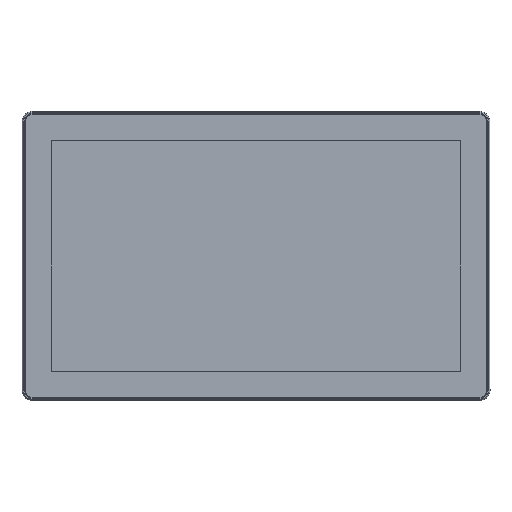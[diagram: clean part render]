
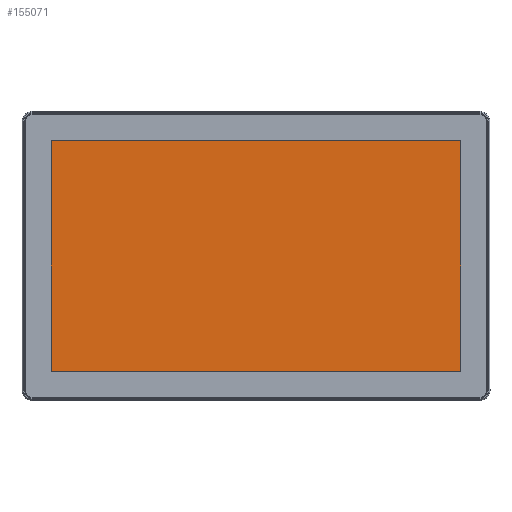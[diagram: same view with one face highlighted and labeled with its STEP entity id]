
A CAD part, top view. The second image highlights one B-rep face of the part: STEP entity #155071.
In plain terms, the highlighted planar face has unit normal (0, 0, 1).
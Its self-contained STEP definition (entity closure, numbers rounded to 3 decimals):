
#16026=FACE_OUTER_BOUND('',#24126,.T.);
#24126=EDGE_LOOP('',(#125026,#125027,#125028,#125029));
#37132=LINE('',#255422,#52588);
#37133=LINE('',#255424,#52589);
#37134=LINE('',#255426,#52590);
#37135=LINE('',#255427,#52591);
#52588=VECTOR('',#191925,10.);
#52589=VECTOR('',#191926,10.);
#52590=VECTOR('',#191927,10.);
#52591=VECTOR('',#191928,10.);
#67426=VERTEX_POINT('',#255420);
#67427=VERTEX_POINT('',#255421);
#67428=VERTEX_POINT('',#255423);
#67429=VERTEX_POINT('',#255425);
#87431=EDGE_CURVE('',#67426,#67427,#37132,.T.);
#87432=EDGE_CURVE('',#67427,#67428,#37133,.T.);
#87433=EDGE_CURVE('',#67428,#67429,#37134,.T.);
#87434=EDGE_CURVE('',#67429,#67426,#37135,.T.);
#125026=ORIENTED_EDGE('',*,*,#87431,.T.);
#125027=ORIENTED_EDGE('',*,*,#87432,.T.);
#125028=ORIENTED_EDGE('',*,*,#87433,.T.);
#125029=ORIENTED_EDGE('',*,*,#87434,.T.);
#140624=PLANE('',#164025);
#155071=ADVANCED_FACE('',(#16026),#140624,.T.);
#164025=AXIS2_PLACEMENT_3D('',#255419,#191923,#191924);
#191923=DIRECTION('center_axis',(0.,0.,
1.));
#191924=DIRECTION('ref_axis',(1.,0.,0.));
#191925=DIRECTION('',(0.,-1.,0.));
#191926=DIRECTION('',(1.,0.,0.));
#191927=DIRECTION('',(0.,1.,0.));
#191928=DIRECTION('',(-1.,0.,0.));
#255419=CARTESIAN_POINT('Origin',(0.,0.,
1.091));
#255420=CARTESIAN_POINT('',(-238.4,134.15,1.091));
#255421=CARTESIAN_POINT('',(-238.4,-134.15,1.091));
#255422=CARTESIAN_POINT('',(-238.4,-134.15,1.091));
#255423=CARTESIAN_POINT('',(238.4,-134.15,1.091));
#255424=CARTESIAN_POINT('',(238.4,-134.15,1.091));
#255425=CARTESIAN_POINT('',(238.4,134.15,1.091));
#255426=CARTESIAN_POINT('',(238.4,134.15,1.091));
#255427=CARTESIAN_POINT('',(-238.4,134.15,1.091));
